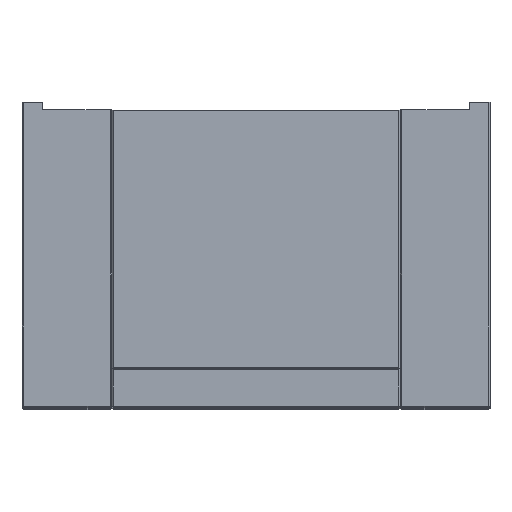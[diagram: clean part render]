
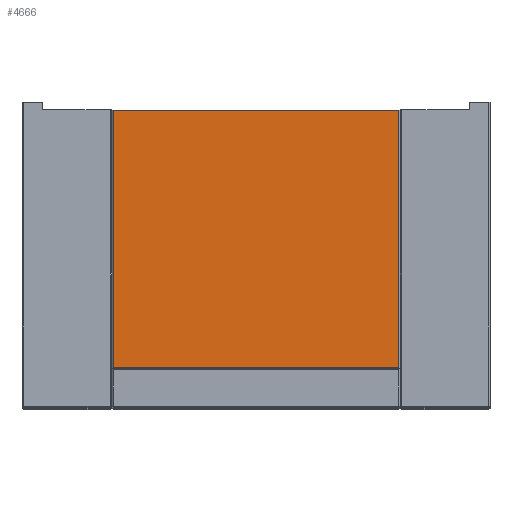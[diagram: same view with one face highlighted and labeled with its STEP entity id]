
A CAD part, top view. The second image highlights one B-rep face of the part: STEP entity #4666.
In plain terms, the highlighted planar face has unit normal (0, 0, 1).
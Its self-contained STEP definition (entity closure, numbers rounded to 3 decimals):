
#4666 = ADVANCED_FACE( '', ( #9665 ), #9666, .T. );
#9665 = FACE_OUTER_BOUND( '', #15272, .T. );
#9666 = PLANE( '', #15273 );
#15272 = EDGE_LOOP( '', ( #30814, #30815, #30816, #30817 ) );
#15273 = AXIS2_PLACEMENT_3D( '', #30818, #30819, #30820 );
#30814 = ORIENTED_EDGE( '', *, *, #38839, .T. );
#30815 = ORIENTED_EDGE( '', *, *, #39534, .T. );
#30816 = ORIENTED_EDGE( '', *, *, #39666, .F. );
#30817 = ORIENTED_EDGE( '', *, *, #38005, .T. );
#30818 = CARTESIAN_POINT( '', ( -293., -15., 1752. ) );
#30819 = DIRECTION( '', ( 0., 0., 1. ) );
#30820 = DIRECTION( '', ( 1., 0., 0. ) );
#38005 = EDGE_CURVE( '', #46562, #46566, #46568, .T. );
#38839 = EDGE_CURVE( '', #46566, #47552, #47554, .T. );
#39534 = EDGE_CURVE( '', #47552, #48298, #48301, .T. );
#39666 = EDGE_CURVE( '', #46562, #48298, #48430, .T. );
#46562 = VERTEX_POINT( '', #63270 );
#46566 = VERTEX_POINT( '', #63276 );
#46568 = LINE( '', #63279, #63280 );
#47552 = VERTEX_POINT( '', #65220 );
#47554 = LINE( '', #65223, #65224 );
#48298 = VERTEX_POINT( '', #66427 );
#48301 = LINE( '', #66431, #66432 );
#48430 = LINE( '', #66627, #66628 );
#63270 = CARTESIAN_POINT( '', ( -290., -15., 1752. ) );
#63276 = CARTESIAN_POINT( '', ( -290., -537.183, 1752. ) );
#63279 = CARTESIAN_POINT( '', ( -290., -15., 1752. ) );
#63280 = VECTOR( '', #70100, 1000. );
#65220 = CARTESIAN_POINT( '', ( 290., -537.183, 1752. ) );
#65223 = CARTESIAN_POINT( '', ( -293., -537.183, 1752. ) );
#65224 = VECTOR( '', #70561, 1000. );
#66427 = CARTESIAN_POINT( '', ( 290., -15., 1752. ) );
#66431 = CARTESIAN_POINT( '', ( 290., -15., 1752. ) );
#66432 = VECTOR( '', #71006, 1000. );
#66627 = CARTESIAN_POINT( '', ( -293., -15., 1752. ) );
#66628 = VECTOR( '', #71068, 1000. );
#70100 = DIRECTION( '', ( 0., -1., 0. ) );
#70561 = DIRECTION( '', ( 1., 0., 0. ) );
#71006 = DIRECTION( '', ( 0., 1., 0. ) );
#71068 = DIRECTION( '', ( 1., 0., 0. ) );
